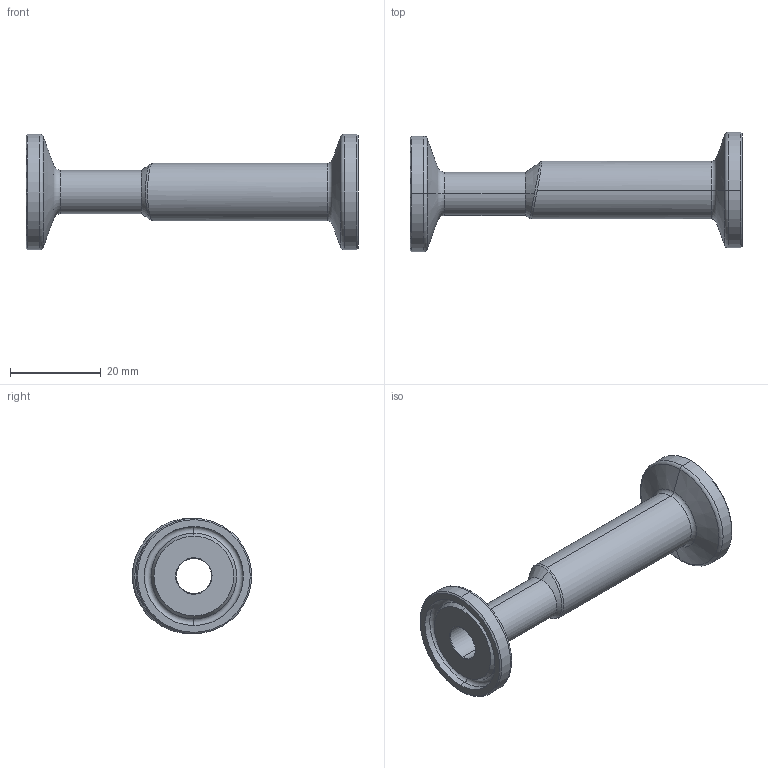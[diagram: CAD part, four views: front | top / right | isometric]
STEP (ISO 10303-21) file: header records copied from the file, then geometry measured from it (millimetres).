
FILE_DESCRIPTION (( 'STEP AP214' ), '1' );
FILE_NAME ('TEG32SCC6L.5x.375-...STEP', '2016-06-01T12:31:21', ( 'eran' ), ( '' ), 'SwSTEP 2.0', 'SolidWorks 2016', '' );
FILE_SCHEMA (( 'AUTOMOTIVE_DESIGN' ));
Length unit declared in the file: millimetre
Products named in the file (1): TEG32SCC6L.5x.375-..
Bounding box: 73.03 x 26.23 x 25.4 mm (x, y, z)
Volume: 7108.7 mm3; surface area: 6667 mm2
Topology: 1 solids, 1 shells, 58 faces, 123 edges, 69 vertices
Faces by surface type: cone 19, torus 17, cylinder 16, plane 4, bspline 2
Entity records: 2041 total; most frequent: CARTESIAN_POINT 743, DIRECTION 296, ORIENTED_EDGE 246, AXIS2_PLACEMENT_3D 131, EDGE_CURVE 123, CIRCLE 74, VERTEX_POINT 69, EDGE_LOOP 62
